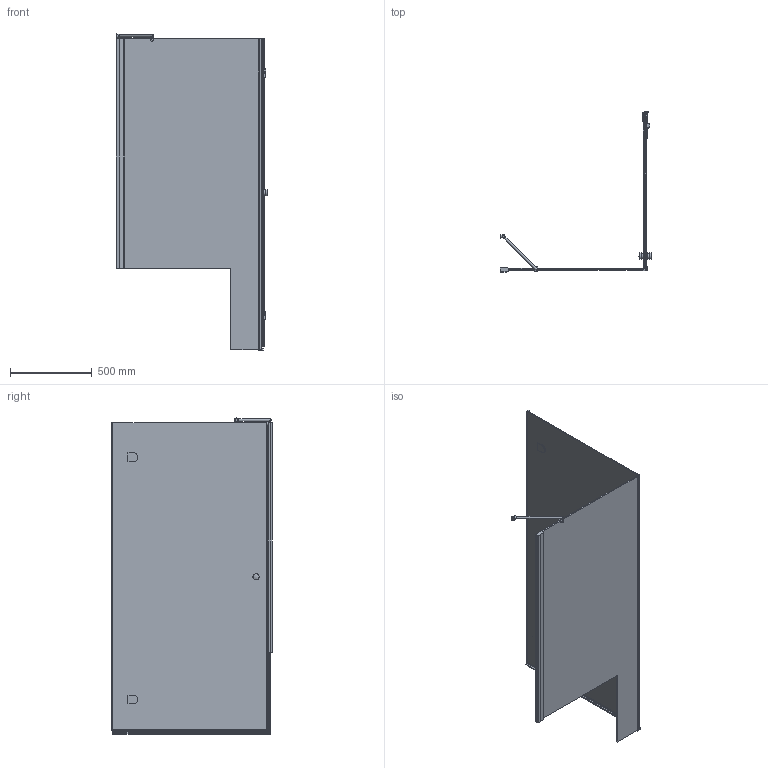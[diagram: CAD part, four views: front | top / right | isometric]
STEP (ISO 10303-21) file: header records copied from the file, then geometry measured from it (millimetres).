
FILE_DESCRIPTION(/* description */ (''),/* implementation_level */ '2;1');
FILE_NAME(/* name */ 'E:\Работа\Сергей\Душевые кабинки\! Работа\LUX SQUARE GK-002V1P-2511\LUX SQUARE GK-002V1P-2511 правая модель\LUX SQUARE GK-002V1P-2511 ПРАВАЯ-3D.stp',/* time_stamp */ '2017-06-08T18:36:30+03:00',/* author */ ('PC'),/* organization */ (''),/* preprocessor_version */ 'ST-DEVELOPER v15.2',/* originating_system */ 'Autodesk Inventor 2014',/* authorisation */ '');
FILE_SCHEMA (('AUTOMOTIVE_DESIGN { 1 0 10303 214 3 1 1 }'));
Length unit declared in the file: millimetre
Products named in the file (1): LUX SQUARE GK-002V1P-2511 \X2\041F0420041004120410042F
\X0\-3D
Bounding box: 928.53 x 980.3 x 1931.5 mm (x, y, z)
Volume: 23367556.4 mm3; surface area: 6712436.3 mm2
Topology: 4 solids, 6 shells, 465 faces, 1186 edges, 750 vertices
Faces by surface type: plane 331, cylinder 116, torus 9, sphere 5, bspline 4
Full cylindrical faces by diameter (mm): 12 x1, 15 x1, 20 x2, 26 x1, 38 x4
Entity records: 14537 total; most frequent: CARTESIAN_POINT 2834, ORIENTED_EDGE 2322, DIRECTION 2285, EDGE_CURVE 1161, LINE 883, VECTOR 883, VERTEX_POINT 740, AXIS2_PLACEMENT_3D 701
